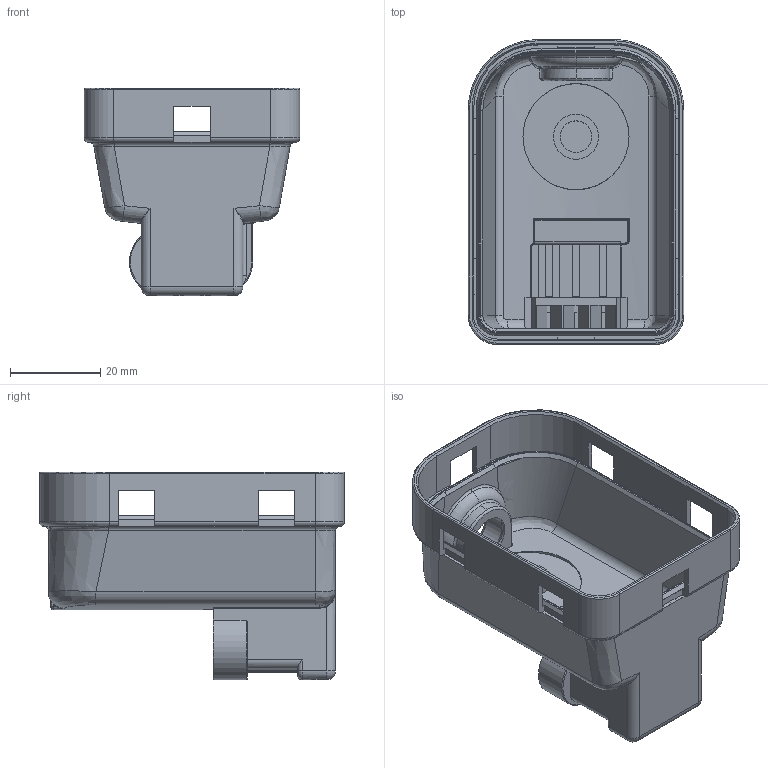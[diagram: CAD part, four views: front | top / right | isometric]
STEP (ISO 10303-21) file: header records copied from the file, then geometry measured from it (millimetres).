
FILE_DESCRIPTION (( 'STEP AP214' ), '1' );
FILE_NAME ('capot_ss_nervures.STEP', '2003-06-19T09:06:55', ( 'JDaures' ), ( 'Rascol' ), 'SwSTEP 2.0', 'SolidWorks 2002127', '' );
FILE_SCHEMA (( 'AUTOMOTIVE_DESIGN' ));
Length unit declared in the file: millimetre
Products named in the file (1): capot_ss_nervures
Bounding box: 47.8 x 67.6 x 46 mm (x, y, z)
Volume: 15815 mm3; surface area: 20952.2 mm2
Topology: 1 solids, 1 shells, 476 faces, 1268 edges, 765 vertices
Faces by surface type: plane 239, cylinder 114, bspline 50, torus 46, cone 18, sphere 9
Entity records: 37604 total; most frequent: CARTESIAN_POINT 25994, ORIENTED_EDGE 2512, DIRECTION 2324, EDGE_CURVE 1256, LINE 780, VECTOR 780, AXIS2_PLACEMENT_3D 772, VERTEX_POINT 765
